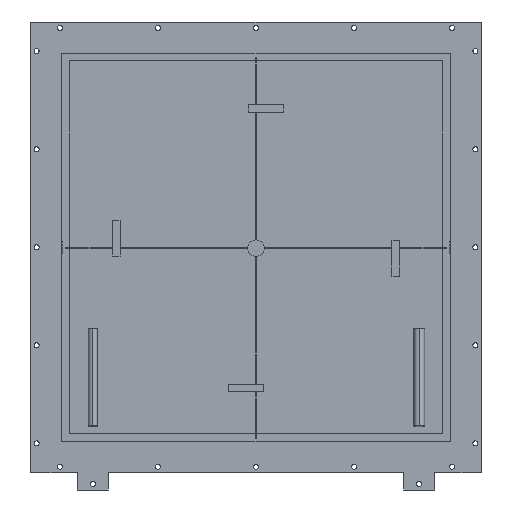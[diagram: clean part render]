
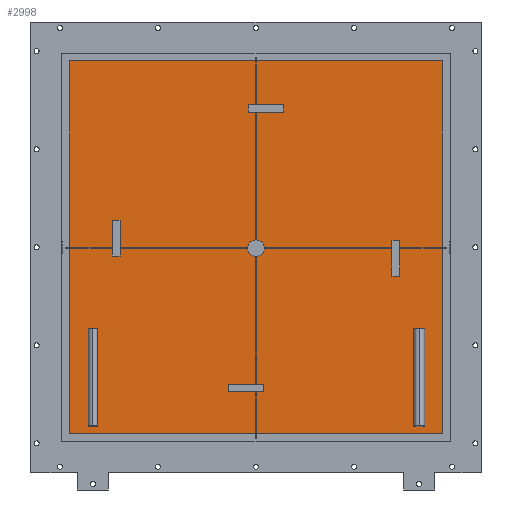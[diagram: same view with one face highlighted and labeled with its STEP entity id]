
A CAD part, front view. The second image highlights one B-rep face of the part: STEP entity #2998.
In plain terms, the highlighted planar face has unit normal (0, -1, 0).
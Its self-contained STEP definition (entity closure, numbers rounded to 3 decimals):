
#129=CARTESIAN_POINT('',(0.,74.75,-2.5));
#130=DIRECTION('',(0.,1.,0.));
#131=DIRECTION('',(0.,0.,1.));
#132=AXIS2_PLACEMENT_3D('',#129,#130,#131);
#134=CARTESIAN_POINT('',(0.,74.75,-2.5));
#135=DIRECTION('',(0.,1.,0.));
#136=DIRECTION('',(0.,0.,-1.));
#137=AXIS2_PLACEMENT_3D('',#134,#135,#136);
#139=DIRECTION('',(1.,0.,0.));
#140=VECTOR('',#139,20.);
#141=CARTESIAN_POINT('',(-370.,74.75,-22.5));
#142=LINE('',#141,#140);
#143=DIRECTION('',(0.,0.,1.));
#144=VECTOR('',#143,92.);
#145=CARTESIAN_POINT('',(-350.,74.75,-22.5));
#146=LINE('',#145,#144);
#147=DIRECTION('',(-1.,0.,0.));
#148=VECTOR('',#147,20.);
#149=CARTESIAN_POINT('',(-350.,74.75,69.5));
#150=LINE('',#149,#148);
#151=DIRECTION('',(0.,0.,-1.));
#152=VECTOR('',#151,92.);
#153=CARTESIAN_POINT('',(-370.,74.75,69.5));
#154=LINE('',#153,#152);
#155=DIRECTION('',(0.,0.,-1.));
#156=VECTOR('',#155,20.);
#157=CARTESIAN_POINT('',(-20.,74.75,367.5));
#158=LINE('',#157,#156);
#159=DIRECTION('',(1.,0.,0.));
#160=VECTOR('',#159,92.);
#161=CARTESIAN_POINT('',(-20.,74.75,347.5));
#162=LINE('',#161,#160);
#163=DIRECTION('',(0.,0.,1.));
#164=VECTOR('',#163,20.);
#165=CARTESIAN_POINT('',(72.,74.75,347.5));
#166=LINE('',#165,#164);
#167=DIRECTION('',(-1.,0.,0.));
#168=VECTOR('',#167,92.);
#169=CARTESIAN_POINT('',(72.,74.75,367.5));
#170=LINE('',#169,#168);
#171=DIRECTION('',(0.,0.,-1.));
#172=VECTOR('',#171,92.);
#173=CARTESIAN_POINT('',(350.,74.75,17.5));
#174=LINE('',#173,#172);
#175=DIRECTION('',(1.,0.,0.));
#176=VECTOR('',#175,20.);
#177=CARTESIAN_POINT('',(350.,74.75,-74.5));
#178=LINE('',#177,#176);
#179=DIRECTION('',(0.,0.,1.));
#180=VECTOR('',#179,92.);
#181=CARTESIAN_POINT('',(370.,74.75,-74.5));
#182=LINE('',#181,#180);
#183=DIRECTION('',(-1.,0.,0.));
#184=VECTOR('',#183,20.);
#185=CARTESIAN_POINT('',(370.,74.75,17.5));
#186=LINE('',#185,#184);
#187=DIRECTION('',(-1.,0.,0.));
#188=VECTOR('',#187,92.);
#189=CARTESIAN_POINT('',(20.,74.75,-352.5));
#190=LINE('',#189,#188);
#191=DIRECTION('',(0.,0.,-1.));
#192=VECTOR('',#191,20.);
#193=CARTESIAN_POINT('',(-72.,74.75,-352.5));
#194=LINE('',#193,#192);
#195=DIRECTION('',(1.,0.,0.));
#196=VECTOR('',#195,92.);
#197=CARTESIAN_POINT('',(-72.,74.75,-372.5));
#198=LINE('',#197,#196);
#199=DIRECTION('',(0.,0.,1.));
#200=VECTOR('',#199,20.);
#201=CARTESIAN_POINT('',(20.,74.75,-372.5));
#202=LINE('',#201,#200);
#203=DIRECTION('',(0.,0.,1.));
#204=VECTOR('',#203,1036.);
#205=CARTESIAN_POINT('',(518.,74.75,-520.5));
#206=LINE('',#205,#204);
#211=DIRECTION('',(-1.,0.,0.));
#212=VECTOR('',#211,1036.);
#213=CARTESIAN_POINT('',(518.,74.75,515.5));
#214=LINE('',#213,#212);
#219=DIRECTION('',(0.,0.,-1.));
#220=VECTOR('',#219,1036.);
#221=CARTESIAN_POINT('',(-518.,74.75,515.5));
#222=LINE('',#221,#220);
#227=DIRECTION('',(1.,0.,0.));
#228=VECTOR('',#227,1036.);
#229=CARTESIAN_POINT('',(-518.,74.75,-520.5));
#230=LINE('',#229,#228);
#2399=CARTESIAN_POINT('',(518.,74.75,-520.5));
#2400=CARTESIAN_POINT('',(518.,74.75,515.5));
#2401=VERTEX_POINT('',#2399);
#2402=VERTEX_POINT('',#2400);
#2403=CARTESIAN_POINT('',(-518.,74.75,-520.5));
#2404=VERTEX_POINT('',#2403);
#2405=CARTESIAN_POINT('',(-518.,74.75,515.5));
#2406=VERTEX_POINT('',#2405);
#2603=CARTESIAN_POINT('',(0.,74.75,18.7));
#2604=CARTESIAN_POINT('',(0.,74.75,-23.7));
#2605=VERTEX_POINT('',#2603);
#2606=VERTEX_POINT('',#2604);
#2641=CARTESIAN_POINT('',(-370.,74.75,-22.5));
#2642=CARTESIAN_POINT('',(-350.,74.75,-22.5));
#2643=VERTEX_POINT('',#2641);
#2644=VERTEX_POINT('',#2642);
#2645=CARTESIAN_POINT('',(-350.,74.75,69.5));
#2646=VERTEX_POINT('',#2645);
#2647=CARTESIAN_POINT('',(-370.,74.75,69.5));
#2648=VERTEX_POINT('',#2647);
#2649=CARTESIAN_POINT('',(-20.,74.75,367.5));
#2650=CARTESIAN_POINT('',(-20.,74.75,347.5));
#2651=VERTEX_POINT('',#2649);
#2652=VERTEX_POINT('',#2650);
#2653=CARTESIAN_POINT('',(72.,74.75,347.5));
#2654=VERTEX_POINT('',#2653);
#2655=CARTESIAN_POINT('',(72.,74.75,367.5));
#2656=VERTEX_POINT('',#2655);
#2657=CARTESIAN_POINT('',(350.,74.75,17.5));
#2658=CARTESIAN_POINT('',(350.,74.75,-74.5));
#2659=VERTEX_POINT('',#2657);
#2660=VERTEX_POINT('',#2658);
#2661=CARTESIAN_POINT('',(370.,74.75,-74.5));
#2662=VERTEX_POINT('',#2661);
#2663=CARTESIAN_POINT('',(370.,74.75,17.5));
#2664=VERTEX_POINT('',#2663);
#2665=CARTESIAN_POINT('',(20.,74.75,-352.5));
#2666=CARTESIAN_POINT('',(-72.,74.75,-352.5));
#2667=VERTEX_POINT('',#2665);
#2668=VERTEX_POINT('',#2666);
#2669=CARTESIAN_POINT('',(-72.,74.75,-372.5));
#2670=VERTEX_POINT('',#2669);
#2671=CARTESIAN_POINT('',(20.,74.75,-372.5));
#2672=VERTEX_POINT('',#2671);
#2938=CARTESIAN_POINT('',(0.,74.75,0.));
#2939=DIRECTION('',(0.,1.,0.));
#2940=DIRECTION('',(1.,0.,0.));
#2941=AXIS2_PLACEMENT_3D('',#2938,#2939,#2940);
#2942=PLANE('',#2941);
#2944=ORIENTED_EDGE('',*,*,#2943,.F.);
#2946=ORIENTED_EDGE('',*,*,#2945,.F.);
#2948=ORIENTED_EDGE('',*,*,#2947,.F.);
#2950=ORIENTED_EDGE('',*,*,#2949,.F.);
#2951=EDGE_LOOP('',(#2944,#2946,#2948,#2950));
#2952=FACE_OUTER_BOUND('',#2951,.F.);
#2954=ORIENTED_EDGE('',*,*,#2953,.F.);
#2956=ORIENTED_EDGE('',*,*,#2955,.F.);
#2957=EDGE_LOOP('',(#2954,#2956));
#2958=FACE_BOUND('',#2957,.F.);
#2960=ORIENTED_EDGE('',*,*,#2959,.T.);
#2962=ORIENTED_EDGE('',*,*,#2961,.T.);
#2964=ORIENTED_EDGE('',*,*,#2963,.T.);
#2966=ORIENTED_EDGE('',*,*,#2965,.T.);
#2967=EDGE_LOOP('',(#2960,#2962,#2964,#2966));
#2968=FACE_BOUND('',#2967,.F.);
#2970=ORIENTED_EDGE('',*,*,#2969,.T.);
#2971=ORIENTED_EDGE('',*,*,#2918,.T.);
#2973=ORIENTED_EDGE('',*,*,#2972,.T.);
#2975=ORIENTED_EDGE('',*,*,#2974,.T.);
#2976=EDGE_LOOP('',(#2970,#2971,#2973,#2975));
#2977=FACE_BOUND('',#2976,.F.);
#2979=ORIENTED_EDGE('',*,*,#2978,.T.);
#2981=ORIENTED_EDGE('',*,*,#2980,.T.);
#2983=ORIENTED_EDGE('',*,*,#2982,.T.);
#2985=ORIENTED_EDGE('',*,*,#2984,.T.);
#2986=EDGE_LOOP('',(#2979,#2981,#2983,#2985));
#2987=FACE_BOUND('',#2986,.F.);
#2989=ORIENTED_EDGE('',*,*,#2988,.T.);
#2991=ORIENTED_EDGE('',*,*,#2990,.T.);
#2993=ORIENTED_EDGE('',*,*,#2992,.T.);
#2995=ORIENTED_EDGE('',*,*,#2994,.T.);
#2996=EDGE_LOOP('',(#2989,#2991,#2993,#2995));
#2997=FACE_BOUND('',#2996,.F.);
#133=CIRCLE('',#132,21.2);
#138=CIRCLE('',#137,21.2);
#2918=EDGE_CURVE('',#2652,#2654,#162,.T.);
#2943=EDGE_CURVE('',#2401,#2402,#206,.T.);
#2945=EDGE_CURVE('',#2404,#2401,#230,.T.);
#2947=EDGE_CURVE('',#2406,#2404,#222,.T.);
#2949=EDGE_CURVE('',#2402,#2406,#214,.T.);
#2953=EDGE_CURVE('',#2605,#2606,#133,.T.);
#2955=EDGE_CURVE('',#2606,#2605,#138,.T.);
#2959=EDGE_CURVE('',#2643,#2644,#142,.T.);
#2961=EDGE_CURVE('',#2644,#2646,#146,.T.);
#2963=EDGE_CURVE('',#2646,#2648,#150,.T.);
#2965=EDGE_CURVE('',#2648,#2643,#154,.T.);
#2969=EDGE_CURVE('',#2651,#2652,#158,.T.);
#2972=EDGE_CURVE('',#2654,#2656,#166,.T.);
#2974=EDGE_CURVE('',#2656,#2651,#170,.T.);
#2978=EDGE_CURVE('',#2659,#2660,#174,.T.);
#2980=EDGE_CURVE('',#2660,#2662,#178,.T.);
#2982=EDGE_CURVE('',#2662,#2664,#182,.T.);
#2984=EDGE_CURVE('',#2664,#2659,#186,.T.);
#2988=EDGE_CURVE('',#2667,#2668,#190,.T.);
#2990=EDGE_CURVE('',#2668,#2670,#194,.T.);
#2992=EDGE_CURVE('',#2670,#2672,#198,.T.);
#2994=EDGE_CURVE('',#2672,#2667,#202,.T.);
#2998=ADVANCED_FACE('',(#2952,#2958,#2968,#2977,#2987,#2997),#2942,.F.);
